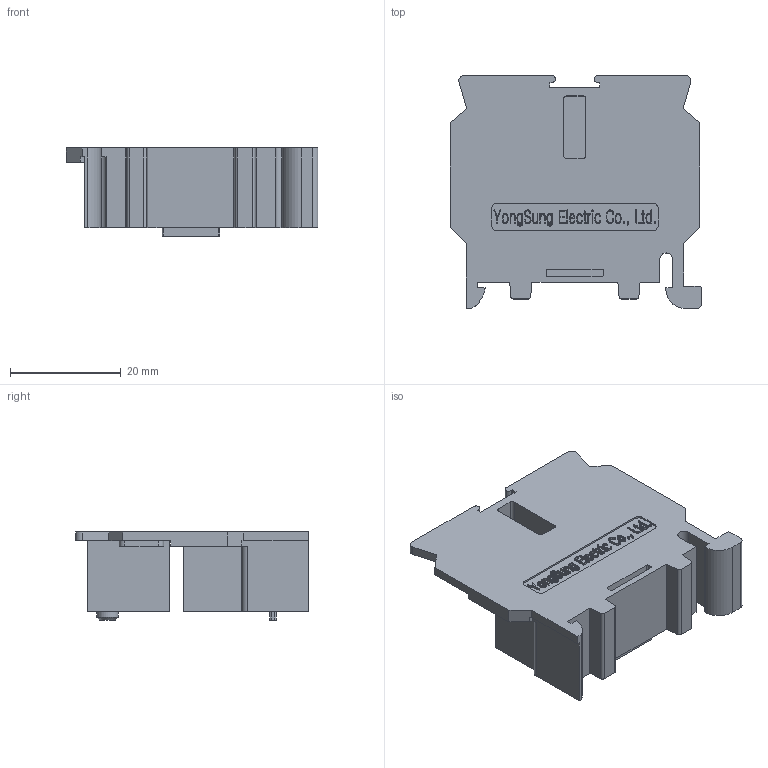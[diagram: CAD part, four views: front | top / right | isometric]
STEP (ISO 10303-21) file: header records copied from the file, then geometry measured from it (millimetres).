
FILE_DESCRIPTION(/* description */ (''),/* implementation_level */ '2;1');
FILE_NAME(/* name */ 'Z:\카다로그-외형도 관련\step-file 외형도\제품 외형도(3D)-신버전\11. 단자대\11.4 조립식 단자대\YSAT60.stp',/* time_stamp */ '2020-12-02T16:25:26+09:00',/* author */ ('user'),/* organization */ (''),/* preprocessor_version */ 'ST-DEVELOPER v16.5',/* originating_system */ 'Autodesk Inventor 2017',/* authorisation */ '');
FILE_SCHEMA (('AP203_CONFIGURATION_CONTROLLED_3D_DESIGN_OF_MECHANICAL_PARTS_AND_ASSEMBLIES_MIM_LF { 1 0 10303 203 3 1 4 }','AUTOMOTIVE_DESIGN { 1 0 10303 214 3 1 1 }'));
Length unit declared in the file: millimetre
Products named in the file (1): YSAT60
Bounding box: 45.4 x 42 x 15.9 mm (x, y, z)
Volume: 7431.7 mm3; surface area: 8241.8 mm2
Topology: 1 solids, 1 shells, 1315 faces, 3708 edges, 2469 vertices
Faces by surface type: bspline 916, plane 339, cylinder 49, cone 11
Full cylindrical faces by diameter (mm): 3.9 x1
Entity records: 43541 total; most frequent: CARTESIAN_POINT 15719, ORIENTED_EDGE 7412, EDGE_CURVE 3706, DIRECTION 2807, VERTEX_POINT 2469, B_SPLINE_CURVE_WITH_KNOTS 1824, LINE 1757, VECTOR 1757
